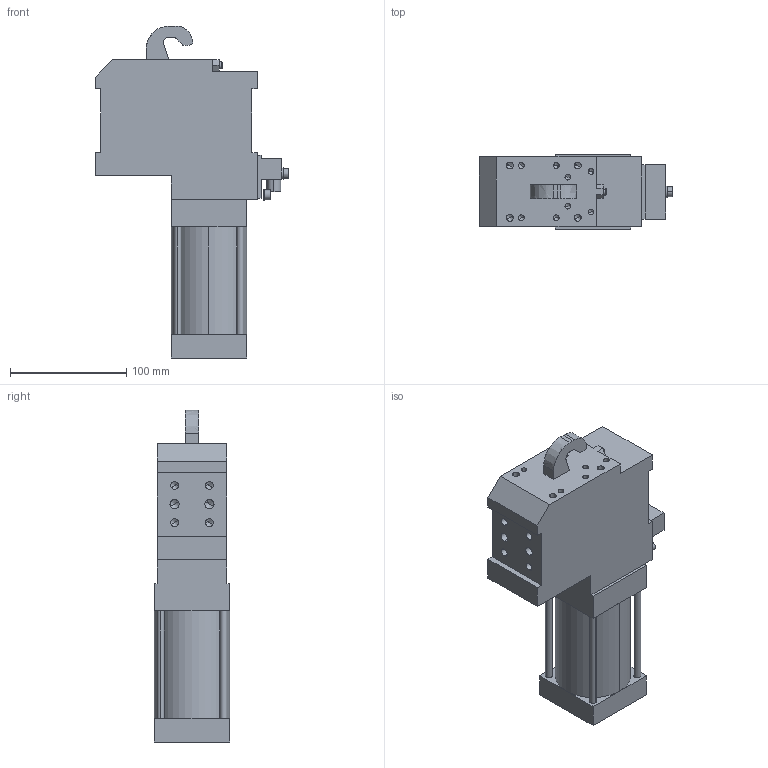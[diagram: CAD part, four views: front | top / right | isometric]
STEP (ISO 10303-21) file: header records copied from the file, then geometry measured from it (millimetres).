
FILE_DESCRIPTION(('CATIA V5 STEP Exchange'),'2;1');
FILE_NAME('G:\Konstruktion\Modelle\Step\K_60_U_T12_TUENKERS.stp','2010-04-30T08:57:06+00:00',('none'),('none'),'CATIA Version 5 Release 19 SP 3 (IN-10)','CATIA V5 STEP AP203','none');
FILE_SCHEMA(('CONFIG_CONTROL_DESIGN'));
Length unit declared in the file: millimetre
Products named in the file (1): K_60_U_TUENKERS
Bounding box: 167 x 65 x 286 mm (x, y, z)
Volume: 1388646.4 mm3; surface area: 114747 mm2
Topology: 2 solids, 2 shells, 226 faces, 624 edges, 380 vertices
Faces by surface type: cylinder 87, plane 70, cone 62, extrusion 7
Entity records: 6265 total; most frequent: CARTESIAN_POINT 1172, ORIENTED_EDGE 1128, DIRECTION 811, EDGE_CURVE 564, VERTEX_POINT 380, AXIS2_PLACEMENT_3D 368, VECTOR 317, LINE 310
